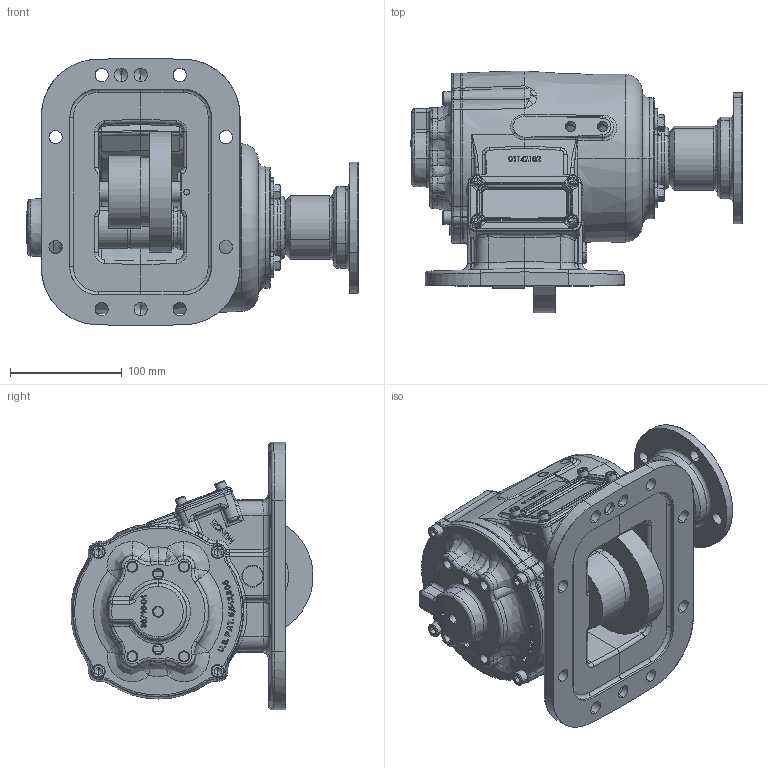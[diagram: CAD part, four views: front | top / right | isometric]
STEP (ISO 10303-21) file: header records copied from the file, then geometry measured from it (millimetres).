
FILE_DESCRIPTION (( 'STEP AP203' ), '1' );
FILE_NAME ('CS8S-XXXXX-X2CX.STEP', '2012-05-31T15:09:51', ( '' ), ( '' ), 'SwSTEP 2.0', 'SolidWorks 2012', '' );
FILE_SCHEMA (( 'CONFIG_CONTROL_DESIGN' ));
Length unit declared in the file: millimetre
Products named in the file (6): CS8S-XXXXX-X2CX; 14T37357; 19T33233; 15T34576; 06t37372a; CS8S-XXXXX-X2XX
Assembly tree (8 placements, depth 2):
  CS8S-XXXXX-X2CX
    CS8S-XXXXX-X2XX
    06t37372a
    15T34576
    19T33233  x4
    14T37357
Bounding box: 297.17 x 216.55 x 239.61 mm (x, y, z)
Volume: 2103736.5 mm3; surface area: 498904.4 mm2
Topology: 7 solids, 15 shells, 2354 faces, 5886 edges, 3638 vertices
Faces by surface type: bspline 763, plane 643, cylinder 523, cone 301, torus 118, sphere 6
Entity records: 126755 total; most frequent: CARTESIAN_POINT 77692, ORIENTED_EDGE 11186, DIRECTION 8309, EDGE_CURVE 5594, VERTEX_POINT 3506, AXIS2_PLACEMENT_3D 3099, EDGE_LOOP 2483, ADVANCED_FACE 2255
